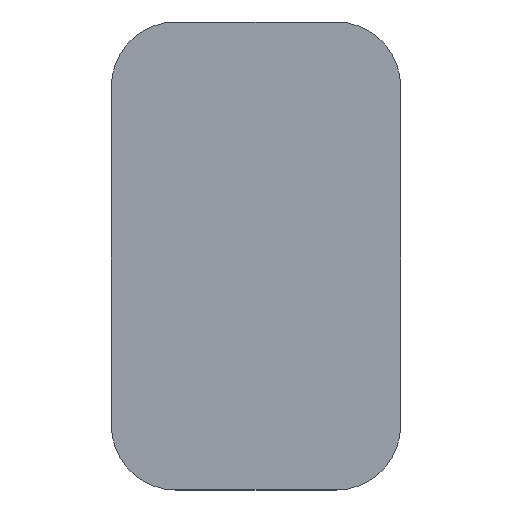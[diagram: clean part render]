
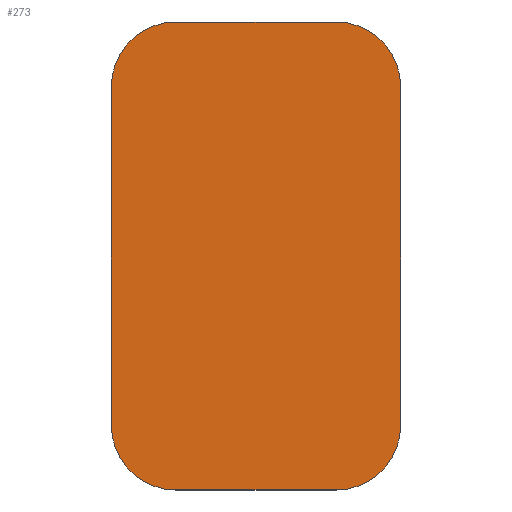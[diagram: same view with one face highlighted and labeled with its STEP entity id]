
A CAD part, top view. The second image highlights one B-rep face of the part: STEP entity #273.
In plain terms, the highlighted planar face has unit normal (0, 0, 1).
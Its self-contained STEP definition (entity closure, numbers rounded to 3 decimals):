
#24 = VERTEX_POINT('',#25);
#25 = CARTESIAN_POINT('',(12.,2.,8.1));
#41 = VERTEX_POINT('',#42);
#42 = CARTESIAN_POINT('',(1.5,12.5,8.1));
#48 = EDGE_CURVE('',#41,#24,#49,.T.);
#49 = CIRCLE('',#50,10.5);
#50 = AXIS2_PLACEMENT_3D('',#51,#52,#53);
#51 = CARTESIAN_POINT('',(12.,12.5,8.1));
#52 = DIRECTION('',(0.,0.,1.));
#53 = DIRECTION('',(1.,0.,0.));
#72 = EDGE_CURVE('',#24,#73,#75,.T.);
#73 = VERTEX_POINT('',#74);
#74 = CARTESIAN_POINT('',(38.,2.,8.1));
#75 = LINE('',#76,#77);
#76 = CARTESIAN_POINT('',(12.,2.,8.1));
#77 = VECTOR('',#78,1.);
#78 = DIRECTION('',(1.,0.,0.));
#104 = VERTEX_POINT('',#105);
#105 = CARTESIAN_POINT('',(1.5,67.5,8.1));
#111 = EDGE_CURVE('',#41,#104,#112,.T.);
#112 = LINE('',#113,#114);
#113 = CARTESIAN_POINT('',(1.5,12.5,8.1));
#114 = VECTOR('',#115,1.);
#115 = DIRECTION('',(0.,1.,0.));
#128 = VERTEX_POINT('',#129);
#129 = CARTESIAN_POINT('',(48.5,12.5,8.1));
#143 = EDGE_CURVE('',#73,#128,#144,.T.);
#144 = CIRCLE('',#145,10.5);
#145 = AXIS2_PLACEMENT_3D('',#146,#147,#148);
#146 = CARTESIAN_POINT('',(38.,12.5,8.1));
#147 = DIRECTION('',(0.,0.,1.));
#148 = DIRECTION('',(1.,0.,0.));
#168 = VERTEX_POINT('',#169);
#169 = CARTESIAN_POINT('',(12.,78.,8.1));
#175 = EDGE_CURVE('',#168,#104,#176,.T.);
#176 = CIRCLE('',#177,10.5);
#177 = AXIS2_PLACEMENT_3D('',#178,#179,#180);
#178 = CARTESIAN_POINT('',(12.,67.5,8.1));
#179 = DIRECTION('',(0.,0.,1.));
#180 = DIRECTION('',(1.,0.,0.));
#200 = EDGE_CURVE('',#168,#201,#203,.T.);
#201 = VERTEX_POINT('',#202);
#202 = CARTESIAN_POINT('',(38.,78.,8.1));
#203 = LINE('',#204,#205);
#204 = CARTESIAN_POINT('',(12.,78.,8.1));
#205 = VECTOR('',#206,1.);
#206 = DIRECTION('',(1.,0.,0.));
#232 = VERTEX_POINT('',#233);
#233 = CARTESIAN_POINT('',(48.5,67.5,8.1));
#239 = EDGE_CURVE('',#128,#232,#240,.T.);
#240 = LINE('',#241,#242);
#241 = CARTESIAN_POINT('',(48.5,12.5,8.1));
#242 = VECTOR('',#243,1.);
#243 = DIRECTION('',(0.,1.,0.));
#261 = EDGE_CURVE('',#232,#201,#262,.T.);
#262 = CIRCLE('',#263,10.5);
#263 = AXIS2_PLACEMENT_3D('',#264,#265,#266);
#264 = CARTESIAN_POINT('',(38.,67.5,8.1));
#265 = DIRECTION('',(0.,0.,1.));
#266 = DIRECTION('',(1.,0.,0.));
#273 = ADVANCED_FACE('',(#274),#284,.T.);
#274 = FACE_BOUND('',#275,.T.);
#275 = EDGE_LOOP('',(#276,#277,#278,#279,#280,#281,#282,#283));
#276 = ORIENTED_EDGE('',*,*,#48,.T.);
#277 = ORIENTED_EDGE('',*,*,#72,.T.);
#278 = ORIENTED_EDGE('',*,*,#143,.T.);
#279 = ORIENTED_EDGE('',*,*,#239,.T.);
#280 = ORIENTED_EDGE('',*,*,#261,.T.);
#281 = ORIENTED_EDGE('',*,*,#200,.F.);
#282 = ORIENTED_EDGE('',*,*,#175,.T.);
#283 = ORIENTED_EDGE('',*,*,#111,.F.);
#284 = PLANE('',#285);
#285 = AXIS2_PLACEMENT_3D('',#286,#287,#288);
#286 = CARTESIAN_POINT('',(25.,40.,8.1));
#287 = DIRECTION('',(0.,0.,1.));
#288 = DIRECTION('',(1.,0.,0.));
